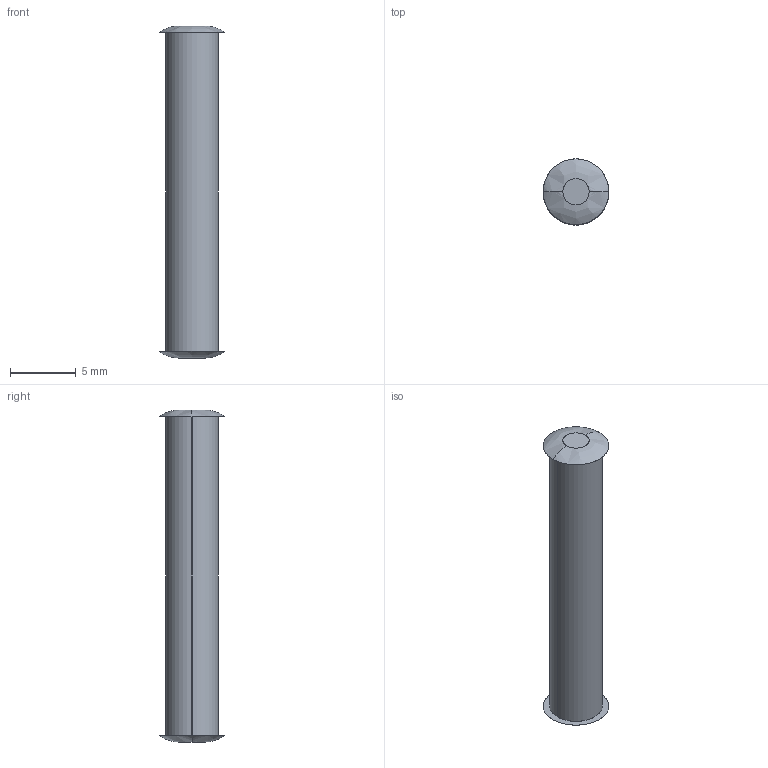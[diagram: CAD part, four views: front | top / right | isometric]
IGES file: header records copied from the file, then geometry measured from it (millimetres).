
Start section: SolidWorks IGES FILE using analytic representation for surfaces
Global section: file name: C:\Documents and Settings\lecoutey\Bureau\GP 1075\1076.110.10.IGS; native system: SolidWorks 2004 by SolidWorks Corporation; preprocessor: Version 5.3; author: lecoutey; date: 050329.153536; units: millimetre
Bounding box: 5 x 5 x 25.25 mm (x, y, z)
Surface area: 361.1 mm2 (no closed solid volume)
Topology: 0 solids, 0 shells, 10 faces, 216 edges, 216 vertices
Faces by surface type: bspline 8, revolution 2
